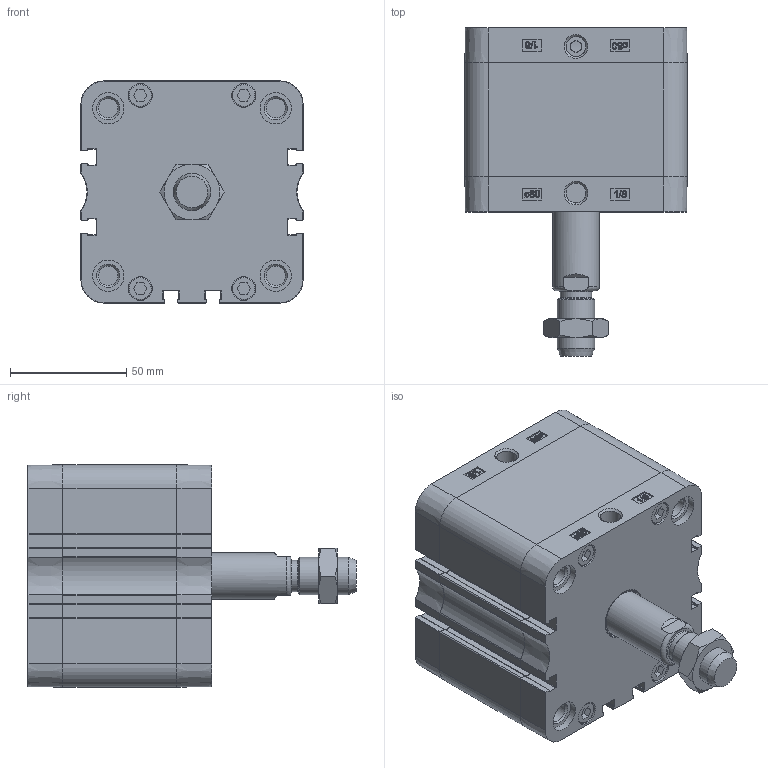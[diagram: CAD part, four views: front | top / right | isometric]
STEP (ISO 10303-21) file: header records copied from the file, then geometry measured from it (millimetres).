
FILE_DESCRIPTION(/* description */ ('Unknown'),/* implementation_level */ '2;1');
FILE_NAME(/* name */ 'ZEFV 80_25',/* time_stamp */ '2024-11-14T13:49:32+01:00',/* author */ ('Unknown'),/* organization */ ('Unknown'),/* preprocessor_version */ 'ST-DEVELOPER v16.7',/* originating_system */ 'Solid Edge',/* authorisation */ 'Unknown');
FILE_SCHEMA (('AUTOMOTIVE_DESIGN {1 0 10303 214 3 1 1}'));
Length unit declared in the file: millimetre
Products named in the file (6): ZEFV 80_25; Profilrohr; Kolbenstange; Kit_1; Kit_2; Mutter
Assembly tree (5 placements, depth 2):
  ZEFV 80_25
    Profilrohr
    Kolbenstange
    Kit_1
    Kit_2
    Mutter
Bounding box: 95.5 x 141 x 95.5 mm (x, y, z)
Volume: 569005.5 mm3; surface area: 120237.1 mm2
Topology: 5 solids, 5 shells, 756 faces, 1997 edges, 1321 vertices
Faces by surface type: plane 349, cylinder 209, bspline 122, cone 55, torus 21
Full cylindrical faces by diameter (mm): 5 x1, 8.376 x8, 8.566 x2, 9.8 x8, 10.3 x8, 12 x1, 13.5 x9, 14.376 x1, 16 x1, 20 x1, 20.6 x1, 21.9 x1, 23 x1, 25 x1, 80 x2
Entity records: 28198 total; most frequent: CARTESIAN_POINT 5862, ORIENTED_EDGE 3736, DIRECTION 3358, EDGE_CURVE 1868, VERTEX_POINT 1292, AXIS2_PLACEMENT_3D 1142, LINE 1074, VECTOR 1074
